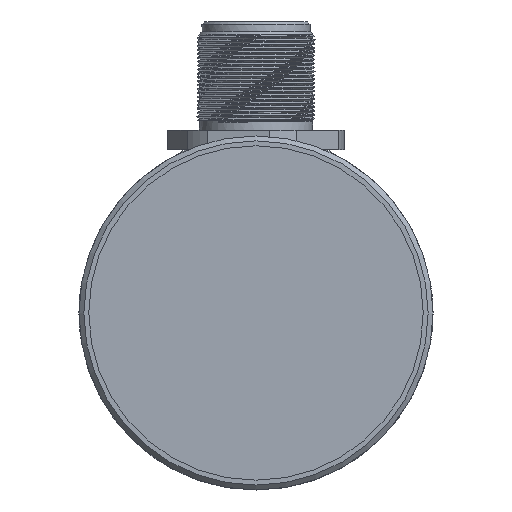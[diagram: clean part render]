
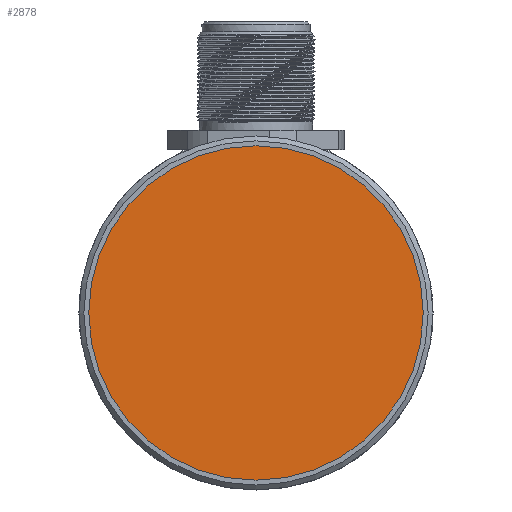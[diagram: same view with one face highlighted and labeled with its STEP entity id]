
A CAD part, left-side view. The second image highlights one B-rep face of the part: STEP entity #2878.
In plain terms, the highlighted planar face has unit normal (-1, 0, 0).
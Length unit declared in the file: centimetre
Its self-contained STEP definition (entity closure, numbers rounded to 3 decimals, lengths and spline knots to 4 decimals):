
#694=PLANE('',#3094);
#773=CIRCLE('',#3092,1.7);
#955=VERTEX_POINT('',#4470);
#1330=EDGE_CURVE('',#955,#955,#773,.T.);
#1821=ORIENTED_EDGE('',*,*,#1330,.T.);
#2412=EDGE_LOOP('',(#1821));
#2652=FACE_BOUND('',#2412,.T.);
#2878=ADVANCED_FACE('',(#2652),#694,.T.);
#3092=AXIS2_PLACEMENT_3D('',#4469,#3444,#3445);
#3094=AXIS2_PLACEMENT_3D('',#4473,#3448,$);
#3444=DIRECTION('',(-1.,0.,0.));
#3445=DIRECTION('',(0.,0.,1.7));
#3448=DIRECTION('',(-1.,0.,0.));
#4469=CARTESIAN_POINT('',(0.1,0.,0.));
#4470=CARTESIAN_POINT('',(0.1,0.,1.7));
#4473=CARTESIAN_POINT('',(0.1,0.,0.));
